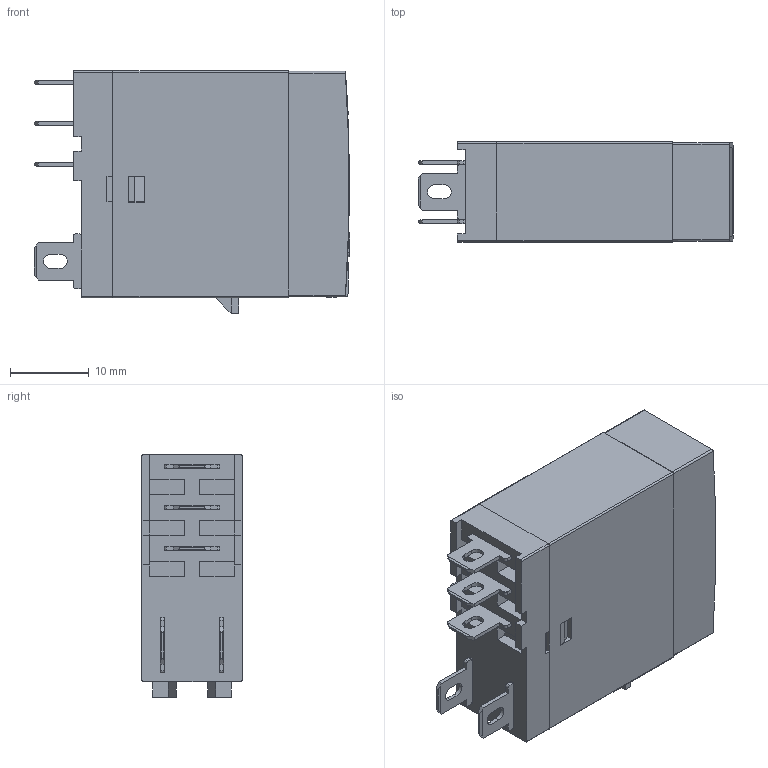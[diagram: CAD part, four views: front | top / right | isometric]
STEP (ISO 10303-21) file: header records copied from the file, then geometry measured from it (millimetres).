
FILE_DESCRIPTION (( 'STEP AP214' ), '1' );
FILE_NAME ('RN05-110AC.STEP', '2026-03-23T10:25:52', ( '' ), ( '' ), 'SwSTEP 2.0', 'SolidWorks 2025', '' );
FILE_SCHEMA (( 'AUTOMOTIVE_DESIGN' ));
Length unit declared in the file: millimetre
Products named in the file (1): RN05-110AC
Bounding box: 40.08 x 12.7 x 30.8 mm (x, y, z)
Volume: 4275 mm3; surface area: 11721.9 mm2
Topology: 12 solids, 12 shells, 1445 faces, 5023 edges, 3786 vertices
Faces by surface type: plane 1129, cylinder 291, cone 10, bspline 8, torus 7
Entity records: 78979 total; most frequent: CARTESIAN_POINT 19553, ORIENTED_EDGE 10046, DIRECTION 7641, EDGE_CURVE 5023, VERTEX_POINT 3786, LINE 3657, VECTOR 3657, AXIS2_PLACEMENT_3D 1992
